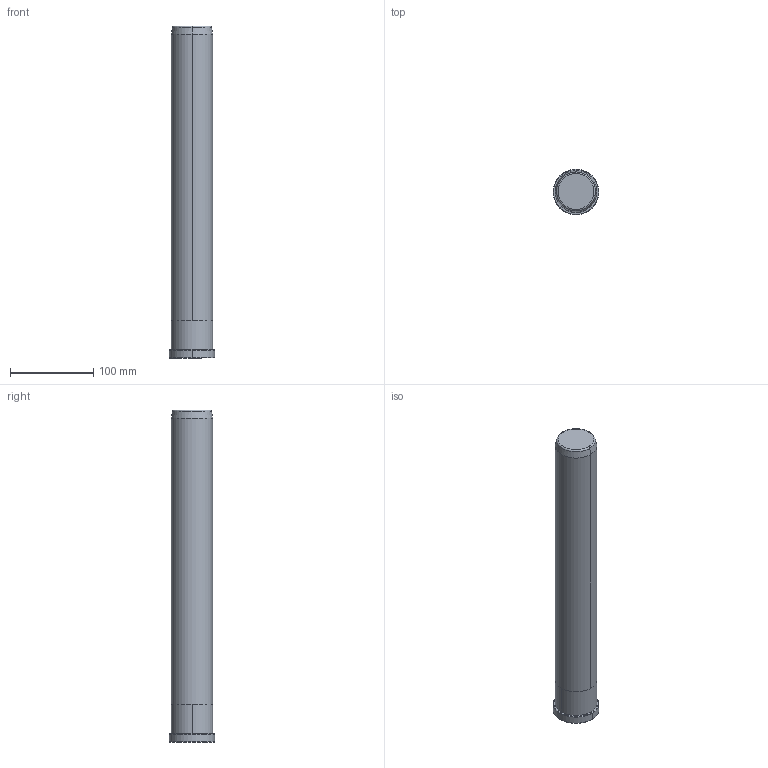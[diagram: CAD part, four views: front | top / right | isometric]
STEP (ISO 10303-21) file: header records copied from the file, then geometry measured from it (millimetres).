
FILE_DESCRIPTION((''),'2;1');
FILE_NAME('B80850400','2018-01-06T',('MANU'),(''),'PRO/ENGINEER BY PARAMETRIC TECHNOLOGY CORPORATION, 2012130','PRO/ENGINEER BY PARAMETRIC TECHNOLOGY CORPORATION, 2012130','');
FILE_SCHEMA(('CONFIG_CONTROL_DESIGN'));
Length unit declared in the file: millimetre
Products named in the file (1): B80850400
Bounding box: 55 x 55 x 400 mm (x, y, z)
Volume: 788100 mm3; surface area: 67258 mm2
Topology: 1 solids, 1 shells, 18 faces, 34 edges, 20 vertices
Faces by surface type: cone 6, cylinder 6, plane 4, torus 2
Entity records: 494 total; most frequent: DIRECTION 92, CARTESIAN_POINT 72, ORIENTED_EDGE 68, AXIS2_PLACEMENT_3D 40, EDGE_CURVE 34, CIRCLE 22, VERTEX_POINT 20, EDGE_LOOP 20
